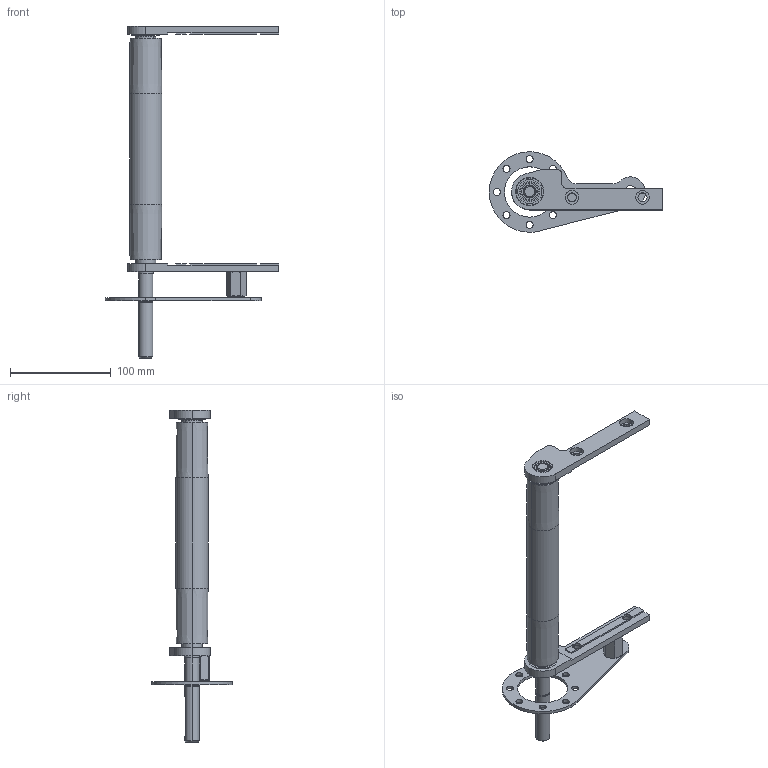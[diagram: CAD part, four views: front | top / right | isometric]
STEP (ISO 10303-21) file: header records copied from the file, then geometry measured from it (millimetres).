
FILE_DESCRIPTION (( 'STEP AP203' ), '1' );
FILE_NAME ('084.030.KD.30.200.STEP', '2019-07-29T09:44:47', ( '' ), ( '' ), 'SwSTEP 2.0', 'SolidWorks 2018', '' );
FILE_SCHEMA (( 'CONFIG_CONTROL_DESIGN' ));
Length unit declared in the file: millimetre
Products named in the file (10): 084.030.168_TUBO 32x3 L=150; 084.030.KD.30.200; 084.801.017; 356.159.005; 084.807.005; 084.802.027; 356.159.004 DX; CUSCINETTI A SFERE_61902-2RS; 084.802.036; 356.159.004 SX
Assembly tree (9 placements, depth 2):
  084.030.KD.30.200
    084.030.168_TUBO 32x3 L=150
    084.801.017
    356.159.004 DX
    356.159.004 SX
    356.159.005
    084.802.036
    084.802.027
    084.807.005
    CUSCINETTI A SFERE_61902-2RS
Bounding box: 172 x 80 x 329.5 mm (x, y, z)
Volume: 166414.2 mm3; surface area: 110764.5 mm2
Topology: 10 solids, 11 shells, 275 faces, 644 edges, 411 vertices
Faces by surface type: cylinder 124, plane 95, cone 30, torus 26
Entity records: 9292 total; most frequent: CARTESIAN_POINT 1586, DIRECTION 1528, ORIENTED_EDGE 1284, EDGE_CURVE 642, AXIS2_PLACEMENT_3D 629, VERTEX_POINT 411, EDGE_LOOP 343, CIRCLE 342
